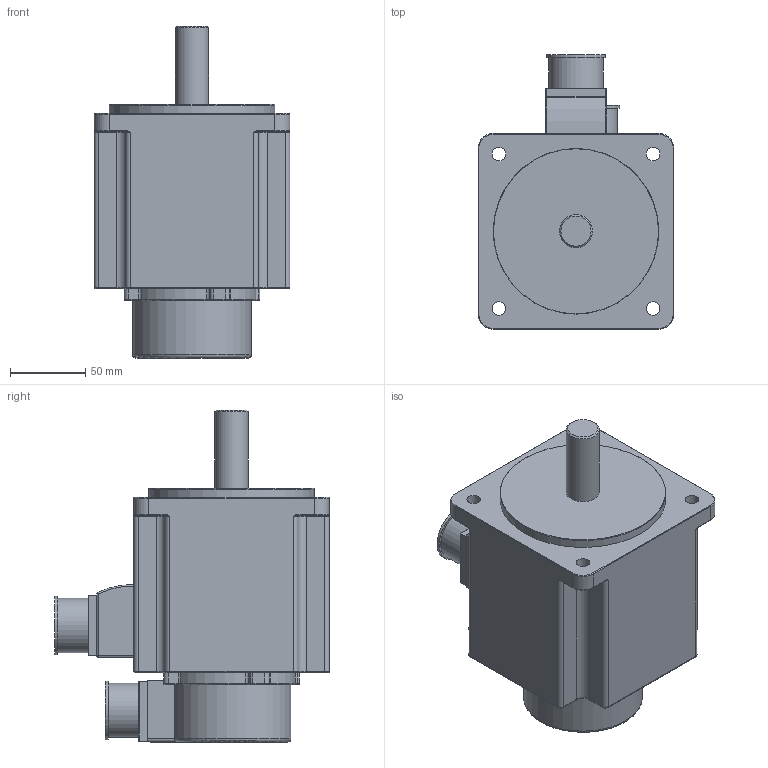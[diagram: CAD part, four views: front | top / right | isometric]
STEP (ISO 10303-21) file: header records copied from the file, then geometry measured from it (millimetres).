
FILE_DESCRIPTION(/* description */ (''),/* implementation_level */ '2;1');
FILE_NAME(/* name */ '130MAL06025.stp',/* time_stamp */ '2019-11-22T13:45:02+08:00',/* author */ (''),/* organization */ (''),/* preprocessor_version */ 'ST-DEVELOPER v16',/* originating_system */ 'SIEMENS PLM Software NX 10.0',/* authorisation */ '');
FILE_SCHEMA (('CONFIG_CONTROL_DESIGN'));
Length unit declared in the file: millimetre
Products named in the file (1): 130MAL06025
Bounding box: 130 x 182.5 x 220.5 mm (x, y, z)
Volume: 2236288.7 mm3; surface area: 124267.9 mm2
Topology: 1 solids, 1 shells, 254 faces, 605 edges, 343 vertices
Faces by surface type: cylinder 117, plane 60, torus 55, sphere 12, bspline 8, cone 2
Full cylindrical faces by diameter (mm): 9 x4, 22 x1, 36 x2, 39 x2, 110 x1
Entity records: 7294 total; most frequent: CARTESIAN_POINT 1396, DIRECTION 1339, ORIENTED_EDGE 1138, EDGE_CURVE 569, AXIS2_PLACEMENT_3D 545, VERTEX_POINT 337, CIRCLE 296, EDGE_LOOP 282
